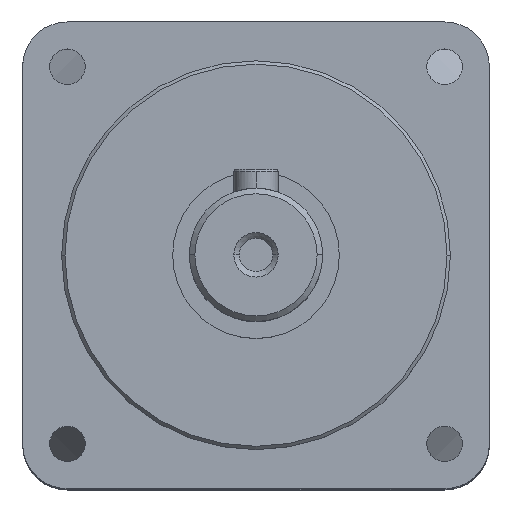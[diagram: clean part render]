
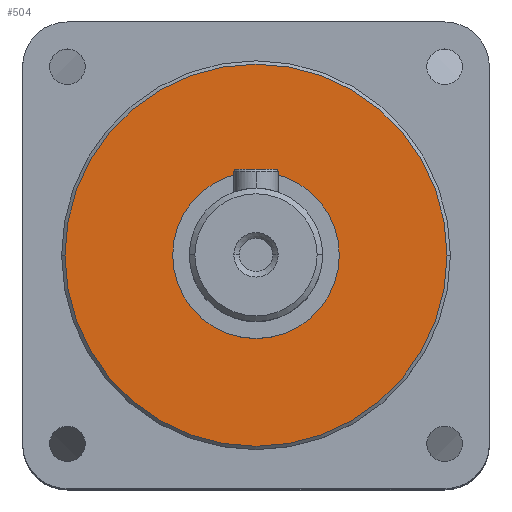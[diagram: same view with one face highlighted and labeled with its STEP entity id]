
A CAD part, top view. The second image highlights one B-rep face of the part: STEP entity #504.
In plain terms, the highlighted planar face has unit normal (0, 0, 1).
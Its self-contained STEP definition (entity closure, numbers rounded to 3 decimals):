
#504 = ADVANCED_FACE ( 'NONE', ( #1624 ), #1623, .T. ) ;
#505 = EDGE_LOOP ( 'NONE', ( #506, #508 ) ) ;
#506 = ORIENTED_EDGE ( 'NONE', *, *, #507, .T. ) ;
#507 = EDGE_CURVE ( 'NONE', #3959, #3956, #1617, .T. ) ;
#508 = ORIENTED_EDGE ( 'NONE', *, *, #3963, .T. ) ;
#1614 = DIRECTION ( 'NONE',  ( 1., 0., 0. ) ) ;
#1615 = DIRECTION ( 'NONE',  ( 0., 0., 1. ) ) ;
#1616 = AXIS2_PLACEMENT_3D ( 'NONE', #1621, #1615, #1614 ) ;
#1617 = CIRCLE ( 'NONE', #1616, 17.2 ) ;
#1618 = DIRECTION ( 'NONE',  ( 1., 0., 0. ) ) ;
#1619 = DIRECTION ( 'NONE',  ( 0., 0., 1. ) ) ;
#1620 = CARTESIAN_POINT ( 'NONE',  ( 0., 0., 12. ) ) ;
#1621 = CARTESIAN_POINT ( 'NONE',  ( 0., 0., 12. ) ) ;
#1622 = AXIS2_PLACEMENT_3D ( 'NONE', #1620, #1619, #1618 ) ;
#1623 = PLANE ( 'NONE',  #1622 ) ;
#1624 = FACE_OUTER_BOUND ( 'NONE', #505, .T. ) ;
#2831 = DIRECTION ( 'NONE',  ( 1., 0., 0. ) ) ;
#2832 = DIRECTION ( 'NONE',  ( 0., 0., 1. ) ) ;
#2833 = CARTESIAN_POINT ( 'NONE',  ( 0., 0., 12. ) ) ;
#2834 = AXIS2_PLACEMENT_3D ( 'NONE', #2833, #2832, #2831 ) ;
#2835 = CIRCLE ( 'NONE', #2834, 17.2 ) ;
#2838 = CARTESIAN_POINT ( 'NONE',  ( -17.2, 0., 12. ) ) ;
#2840 = CARTESIAN_POINT ( 'NONE',  ( 17.2, 0., 12. ) ) ;
#3956 = VERTEX_POINT ( 'NONE', #2840 ) ;
#3959 = VERTEX_POINT ( 'NONE', #2838 ) ;
#3963 = EDGE_CURVE ( 'NONE', #3956, #3959, #2835, .T. ) ;
